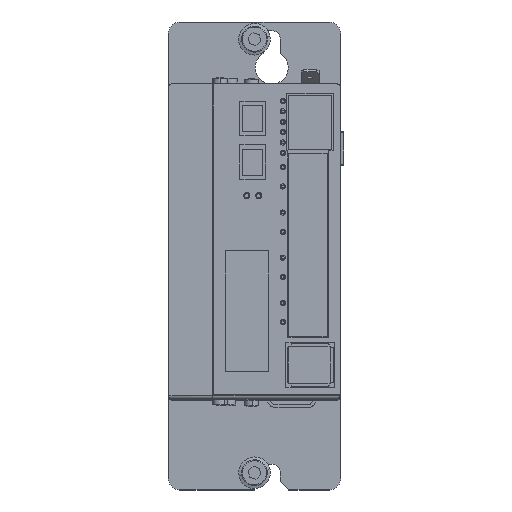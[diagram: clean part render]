
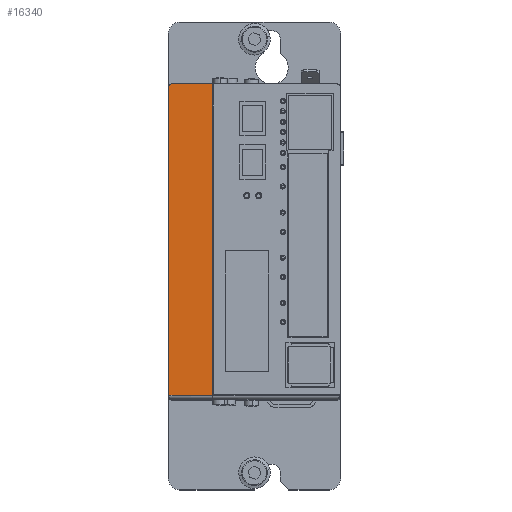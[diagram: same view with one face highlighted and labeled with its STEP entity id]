
A CAD part, top view. The second image highlights one B-rep face of the part: STEP entity #16340.
In plain terms, the highlighted planar face has unit normal (0, 0, 1).
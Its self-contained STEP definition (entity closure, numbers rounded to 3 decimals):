
#124 = CIRCLE ( 'NONE', #37809, 1.5 ) ;
#1198 = DIRECTION ( 'NONE',  ( 1., 0., 0. ) ) ;
#1357 = LINE ( 'NONE', #26631, #15692 ) ;
#4838 = ORIENTED_EDGE ( 'NONE', *, *, #25456, .T. ) ;
#5008 = CARTESIAN_POINT ( 'NONE',  ( -29.797, -55., 193.5 ) ) ;
#5847 = DIRECTION ( 'NONE',  ( 0., -1., 0. ) ) ;
#5882 = VECTOR ( 'NONE', #45441, 1000. ) ;
#8631 = CARTESIAN_POINT ( 'NONE',  ( -14.5, -55., 193.5 ) ) ;
#10982 = VERTEX_POINT ( 'NONE', #45946 ) ;
#11126 = LINE ( 'NONE', #28244, #5882 ) ;
#13700 = VECTOR ( 'NONE', #25710, 1000. ) ;
#14606 = ORIENTED_EDGE ( 'NONE', *, *, #20331, .F. ) ;
#15692 = VECTOR ( 'NONE', #53105, 1000. ) ;
#16340 = ADVANCED_FACE ( 'NONE', ( #38248 ), #55471, .T. ) ;
#19660 = CARTESIAN_POINT ( 'NONE',  ( -28.497, 55., 193.5 ) ) ;
#20331 = EDGE_CURVE ( 'NONE', #34798, #47474, #1357, .T. ) ;
#22749 = AXIS2_PLACEMENT_3D ( 'NONE', #5008, #26923, #5847 ) ;
#25416 = LINE ( 'NONE', #8631, #13700 ) ;
#25456 = EDGE_CURVE ( 'NONE', #28579, #10982, #25416, .T. ) ;
#25710 = DIRECTION ( 'NONE',  ( 0., 1., 0. ) ) ;
#26631 = CARTESIAN_POINT ( 'NONE',  ( -29.797, -55., 193.5 ) ) ;
#26923 = DIRECTION ( 'NONE',  ( 0., 0., 1. ) ) ;
#28244 = CARTESIAN_POINT ( 'NONE',  ( -29.997, -53.509, 193.5 ) ) ;
#28579 = VERTEX_POINT ( 'NONE', #32537 ) ;
#30202 = EDGE_LOOP ( 'NONE', ( #35645, #14606, #48828, #4838, #48865 ) ) ;
#32537 = CARTESIAN_POINT ( 'NONE',  ( -14.5, -53.509, 193.5 ) ) ;
#34798 = VERTEX_POINT ( 'NONE', #44563 ) ;
#35645 = ORIENTED_EDGE ( 'NONE', *, *, #44689, .F. ) ;
#35755 = LINE ( 'NONE', #40560, #50185 ) ;
#37809 = AXIS2_PLACEMENT_3D ( 'NONE', #47414, #47688, #43467 ) ;
#38248 = FACE_OUTER_BOUND ( 'NONE', #30202, .T. ) ;
#40560 = CARTESIAN_POINT ( 'NONE',  ( -29.797, 55., 193.5 ) ) ;
#43467 = DIRECTION ( 'NONE',  ( 0., -1., 0. ) ) ;
#43642 = EDGE_CURVE ( 'NONE', #48732, #10982, #35755, .T. ) ;
#44563 = CARTESIAN_POINT ( 'NONE',  ( -29.797, -53.509, 193.5 ) ) ;
#44689 = EDGE_CURVE ( 'NONE', #47474, #48732, #124, .T. ) ;
#45441 = DIRECTION ( 'NONE',  ( -1., 0., 0. ) ) ;
#45946 = CARTESIAN_POINT ( 'NONE',  ( -14.5, 55., 193.5 ) ) ;
#46778 = EDGE_CURVE ( 'NONE', #28579, #34798, #11126, .T. ) ;
#47414 = CARTESIAN_POINT ( 'NONE',  ( -28.497, 53.5, 193.5 ) ) ;
#47474 = VERTEX_POINT ( 'NONE', #48729 ) ;
#47688 = DIRECTION ( 'NONE',  ( 0., 0., -1. ) ) ;
#48729 = CARTESIAN_POINT ( 'NONE',  ( -29.797, 54.248, 193.5 ) ) ;
#48732 = VERTEX_POINT ( 'NONE', #19660 ) ;
#48828 = ORIENTED_EDGE ( 'NONE', *, *, #46778, .F. ) ;
#48865 = ORIENTED_EDGE ( 'NONE', *, *, #43642, .F. ) ;
#50185 = VECTOR ( 'NONE', #1198, 1000. ) ;
#53105 = DIRECTION ( 'NONE',  ( 0., 1., 0. ) ) ;
#55471 = PLANE ( 'NONE',  #22749 ) ;
